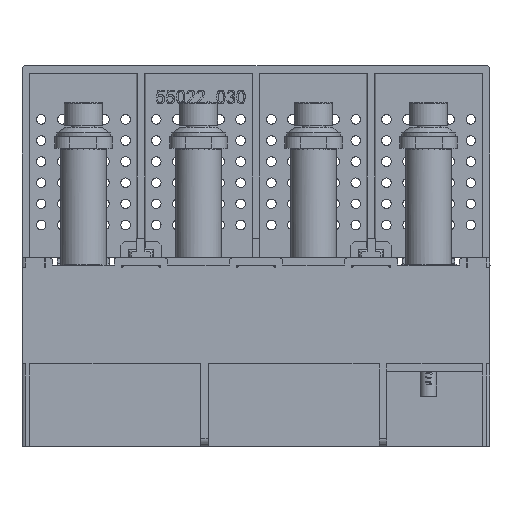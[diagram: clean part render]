
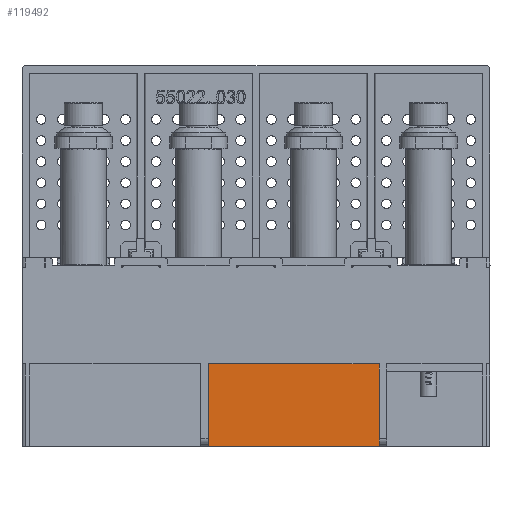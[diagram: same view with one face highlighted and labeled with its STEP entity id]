
A CAD part, front view. The second image highlights one B-rep face of the part: STEP entity #119492.
In plain terms, the highlighted planar face has unit normal (0, -1, 0).
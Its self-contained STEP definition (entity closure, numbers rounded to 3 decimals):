
#7688 = VECTOR ( 'NONE', #125860, 1000. ) ;
#8358 = LINE ( 'NONE', #54633, #80661 ) ;
#8614 = DIRECTION ( 'NONE',  ( 1., 0., 0. ) ) ;
#8686 = CARTESIAN_POINT ( 'NONE',  ( -31.534, -146.946, 278.607 ) ) ;
#13694 = PLANE ( 'NONE',  #46321 ) ;
#14472 = CARTESIAN_POINT ( 'NONE',  ( -31.534, -146.946, 278.607 ) ) ;
#24015 = EDGE_LOOP ( 'NONE', ( #63988, #27402, #149650, #94767 ) ) ;
#25816 = DIRECTION ( 'NONE',  ( 0., 0., 1. ) ) ;
#25953 = CARTESIAN_POINT ( 'NONE',  ( 13.016, -146.946, 257.15 ) ) ;
#27402 = ORIENTED_EDGE ( 'NONE', *, *, #91200, .T. ) ;
#30506 = CARTESIAN_POINT ( 'NONE',  ( -31.534, -146.946, 324.413 ) ) ;
#30710 = LINE ( 'NONE', #14472, #126450 ) ;
#31186 = LINE ( 'NONE', #30506, #7688 ) ;
#37566 = EDGE_CURVE ( 'NONE', #137302, #75841, #128829, .T. ) ;
#46321 = AXIS2_PLACEMENT_3D ( 'NONE', #48617, #60206, #25816 ) ;
#48617 = CARTESIAN_POINT ( 'NONE',  ( -31.534, -146.946, 324.413 ) ) ;
#51084 = EDGE_CURVE ( 'NONE', #91874, #137302, #8358, .T. ) ;
#54633 = CARTESIAN_POINT ( 'NONE',  ( -19.084, -146.946, 257.15 ) ) ;
#60206 = DIRECTION ( 'NONE',  ( 0., 1., 0. ) ) ;
#63988 = ORIENTED_EDGE ( 'NONE', *, *, #37566, .T. ) ;
#71582 = DIRECTION ( 'NONE',  ( 0., 0., 1. ) ) ;
#75841 = VERTEX_POINT ( 'NONE', #97034 ) ;
#80661 = VECTOR ( 'NONE', #8614, 1000. ) ;
#91200 = EDGE_CURVE ( 'NONE', #75841, #144906, #30710, .T. ) ;
#91874 = VERTEX_POINT ( 'NONE', #128292 ) ;
#94767 = ORIENTED_EDGE ( 'NONE', *, *, #51084, .T. ) ;
#97034 = CARTESIAN_POINT ( 'NONE',  ( 13.016, -146.946, 278.607 ) ) ;
#99228 = FACE_OUTER_BOUND ( 'NONE', #24015, .T. ) ;
#104862 = DIRECTION ( 'NONE',  ( -1., 0., 0. ) ) ;
#114228 = VECTOR ( 'NONE', #71582, 1000. ) ;
#119492 = ADVANCED_FACE ( 'NONE', ( #99228 ), #13694, .F. ) ;
#122498 = EDGE_CURVE ( 'NONE', #91874, #144906, #31186, .T. ) ;
#125860 = DIRECTION ( 'NONE',  ( 0., 0., 1. ) ) ;
#126450 = VECTOR ( 'NONE', #104862, 1000. ) ;
#128292 = CARTESIAN_POINT ( 'NONE',  ( -31.534, -146.946, 257.15 ) ) ;
#128829 = LINE ( 'NONE', #142204, #114228 ) ;
#137302 = VERTEX_POINT ( 'NONE', #25953 ) ;
#142204 = CARTESIAN_POINT ( 'NONE',  ( 13.016, -146.946, 324.413 ) ) ;
#144906 = VERTEX_POINT ( 'NONE', #8686 ) ;
#149650 = ORIENTED_EDGE ( 'NONE', *, *, #122498, .F. ) ;
